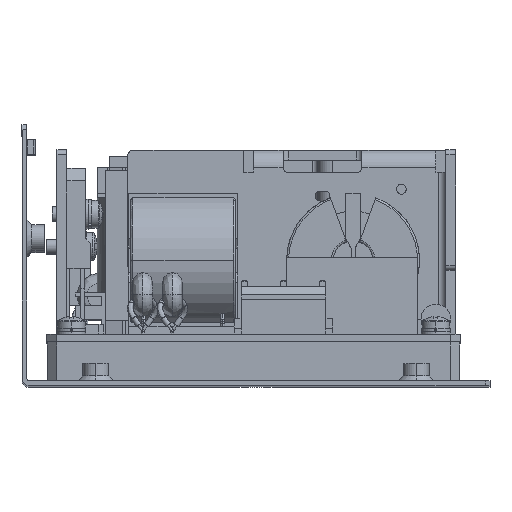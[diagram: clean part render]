
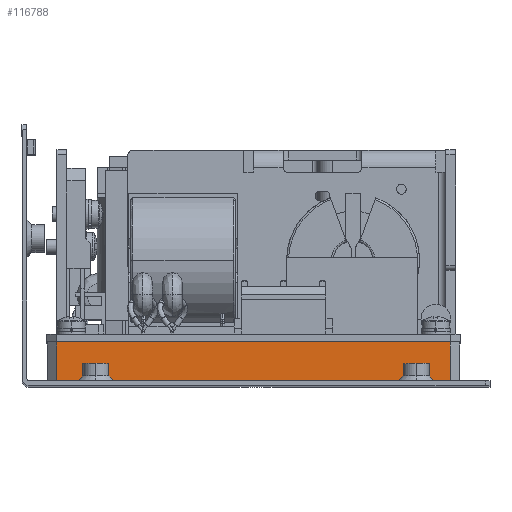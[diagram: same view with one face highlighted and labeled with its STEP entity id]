
A CAD part, top view. The second image highlights one B-rep face of the part: STEP entity #116788.
In plain terms, the highlighted planar face has unit normal (0, 0, 1).
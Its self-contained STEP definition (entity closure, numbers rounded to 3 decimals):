
#4903 = DIRECTION ( 'NONE',  ( 1., 0., 0. ) ) ;
#5692 = DIRECTION ( 'NONE',  ( -1., 0., 0. ) ) ;
#7031 = VERTEX_POINT ( 'NONE', #100864 ) ;
#10730 = EDGE_LOOP ( 'NONE', ( #60981, #34047, #96558, #96137 ) ) ;
#14621 = VERTEX_POINT ( 'NONE', #78305 ) ;
#17129 = DIRECTION ( 'NONE',  ( 0., 1., 0. ) ) ;
#17502 = CARTESIAN_POINT ( 'NONE',  ( -6.1, 8.9, -16.1 ) ) ;
#18192 = CARTESIAN_POINT ( 'NONE',  ( -8.1, 1., -16.1 ) ) ;
#18255 = DIRECTION ( 'NONE',  ( 0., 0., -1. ) ) ;
#19398 = VECTOR ( 'NONE', #58758, 1000. ) ;
#28892 = DIRECTION ( 'NONE',  ( 0., 1., 0. ) ) ;
#29755 = CARTESIAN_POINT ( 'NONE',  ( -87.9, 9., -16.1 ) ) ;
#30150 = LINE ( 'NONE', #17502, #38901 ) ;
#30902 = CARTESIAN_POINT ( 'NONE',  ( -6.1, 9., -16.1 ) ) ;
#34047 = ORIENTED_EDGE ( 'NONE', *, *, #34396, .F. ) ;
#34396 = EDGE_CURVE ( 'NONE', #7031, #76558, #91060, .T. ) ;
#36769 = PLANE ( 'NONE',  #78582 ) ;
#38901 = VECTOR ( 'NONE', #4903, 1000. ) ;
#41356 = CARTESIAN_POINT ( 'NONE',  ( -8.1, 9., -16.1 ) ) ;
#41581 = FACE_OUTER_BOUND ( 'NONE', #10730, .T. ) ;
#53788 = LINE ( 'NONE', #41356, #68597 ) ;
#55813 = CARTESIAN_POINT ( 'NONE',  ( -87.9, 8.9, -16.1 ) ) ;
#57369 = EDGE_CURVE ( 'NONE', #76558, #14621, #30150, .T. ) ;
#58758 = DIRECTION ( 'NONE',  ( 1., 0., 0. ) ) ;
#60981 = ORIENTED_EDGE ( 'NONE', *, *, #57369, .F. ) ;
#64557 = VERTEX_POINT ( 'NONE', #18192 ) ;
#66972 = EDGE_CURVE ( 'NONE', #7031, #64557, #82990, .T. ) ;
#68597 = VECTOR ( 'NONE', #28892, 1000. ) ;
#70926 = CARTESIAN_POINT ( 'NONE',  ( -95., 1., -16.1 ) ) ;
#76558 = VERTEX_POINT ( 'NONE', #55813 ) ;
#78305 = CARTESIAN_POINT ( 'NONE',  ( -8.1, 8.9, -16.1 ) ) ;
#78582 = AXIS2_PLACEMENT_3D ( 'NONE', #30902, #18255, #5692 ) ;
#82990 = LINE ( 'NONE', #70926, #19398 ) ;
#91060 = LINE ( 'NONE', #29755, #116544 ) ;
#93028 = EDGE_CURVE ( 'NONE', #64557, #14621, #53788, .T. ) ;
#96137 = ORIENTED_EDGE ( 'NONE', *, *, #93028, .T. ) ;
#96558 = ORIENTED_EDGE ( 'NONE', *, *, #66972, .T. ) ;
#100864 = CARTESIAN_POINT ( 'NONE',  ( -87.9, 1., -16.1 ) ) ;
#116544 = VECTOR ( 'NONE', #17129, 1000. ) ;
#116788 = ADVANCED_FACE ( 'NONE', ( #41581 ), #36769, .F. ) ;
